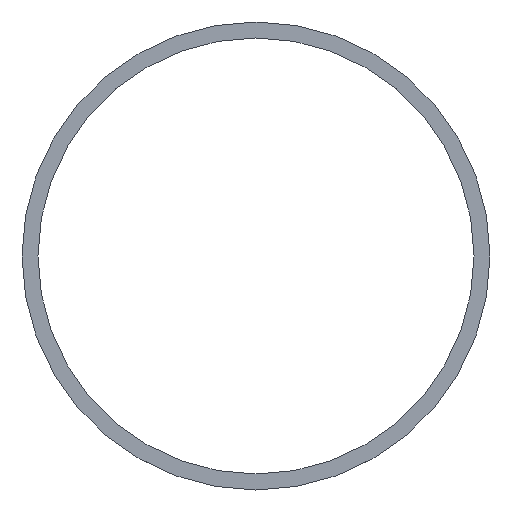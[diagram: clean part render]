
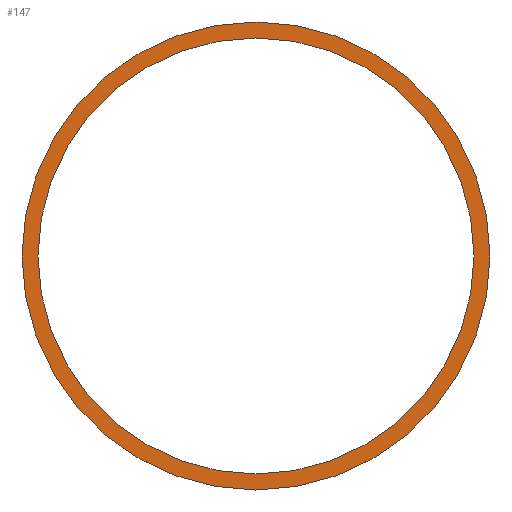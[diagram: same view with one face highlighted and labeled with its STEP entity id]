
A CAD part, top view. The second image highlights one B-rep face of the part: STEP entity #147.
In plain terms, the highlighted planar face has unit normal (0, 0, 1).
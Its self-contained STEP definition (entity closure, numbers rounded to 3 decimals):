
#84=CARTESIAN_POINT('',(127.1,0.,1.05));
#85=VERTEX_POINT('',#84);
#86=CARTESIAN_POINT('',(0.0,0.0,1.05));
#87=DIRECTION('',(0.0,0.0,-1.0));
#88=DIRECTION('',(-1.0,0.0,0.0));
#89=AXIS2_PLACEMENT_3D('',#86,#87,#88);
#90=CIRCLE('',#89,127.1);
#91=EDGE_CURVE('',#85,#85,#90,.T.);
#124=CARTESIAN_POINT('',(136.425,0.,1.05));
#125=VERTEX_POINT('',#124);
#126=CARTESIAN_POINT('',(0.0,0.0,1.05));
#127=DIRECTION('',(0.0,0.0,-1.0));
#128=DIRECTION('',(-1.0,0.0,0.0));
#129=AXIS2_PLACEMENT_3D('',#126,#127,#128);
#130=CIRCLE('',#129,136.425);
#131=EDGE_CURVE('',#125,#125,#130,.T.);
#136=CARTESIAN_POINT('',(0.0,0.0,1.05));
#137=DIRECTION('',(0.0,0.0,-1.0));
#138=DIRECTION('',(-1.0,0.0,0.0));
#139=AXIS2_PLACEMENT_3D('',#136,#137,#138);
#140=PLANE('',#139);
#141=ORIENTED_EDGE('',*,*,#131,.F.);
#142=EDGE_LOOP('',(#141));
#143=FACE_OUTER_BOUND('',#142,.T.);
#144=ORIENTED_EDGE('',*,*,#91,.T.);
#145=EDGE_LOOP('',(#144));
#146=FACE_BOUND('',#145,.T.);
#147=ADVANCED_FACE('',(#143,#146),#140,.F.);
